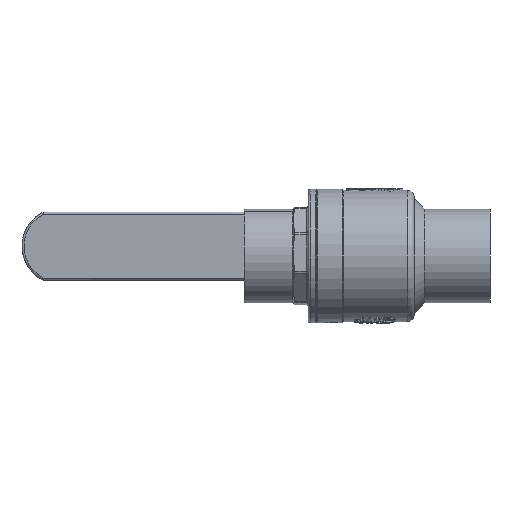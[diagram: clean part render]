
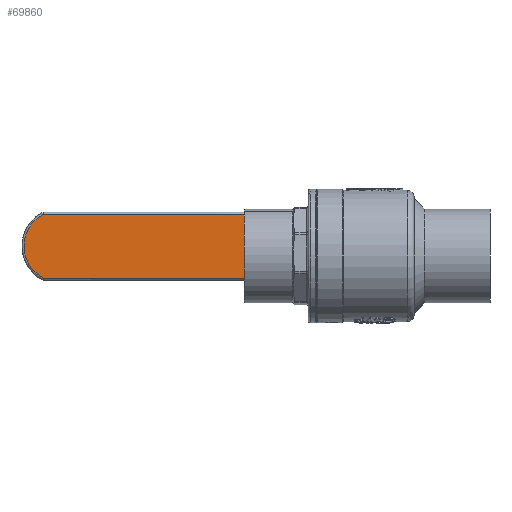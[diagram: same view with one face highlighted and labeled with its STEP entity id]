
A CAD part, front view. The second image highlights one B-rep face of the part: STEP entity #69860.
In plain terms, the highlighted planar face has unit normal (0, -1, 0).
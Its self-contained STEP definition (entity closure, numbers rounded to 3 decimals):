
#3873 = EDGE_LOOP ( 'NONE', ( #51739, #68472, #35517, #90090 ) ) ;
#4374 = VERTEX_POINT ( 'NONE', #22143 ) ;
#15157 = EDGE_CURVE ( 'NONE', #75387, #35710, #104351, .T. ) ;
#16505 = AXIS2_PLACEMENT_3D ( 'NONE', #84686, #49382, #50160 ) ;
#16540 = DIRECTION ( 'NONE',  ( -1., 0., 0. ) ) ;
#19834 = CARTESIAN_POINT ( 'NONE',  ( -10.036, -5., 16.45 ) ) ;
#22143 = CARTESIAN_POINT ( 'NONE',  ( -123.134, -5., -16.45 ) ) ;
#28634 = EDGE_CURVE ( 'NONE', #35710, #4374, #74589, .T. ) ;
#32656 = VECTOR ( 'NONE', #71660, 1000. ) ;
#34989 = PLANE ( 'NONE',  #56392 ) ;
#35517 = ORIENTED_EDGE ( 'NONE', *, *, #60786, .T. ) ;
#35710 = VERTEX_POINT ( 'NONE', #83846 ) ;
#36673 = CARTESIAN_POINT ( 'NONE',  ( -124., -5., -16.45 ) ) ;
#39816 = CIRCLE ( 'NONE', #16505, 18.5 ) ;
#43342 = VERTEX_POINT ( 'NONE', #84058 ) ;
#49382 = DIRECTION ( 'NONE',  ( 0., -1., 0. ) ) ;
#50160 = DIRECTION ( 'NONE',  ( 0., 0., 1. ) ) ;
#51739 = ORIENTED_EDGE ( 'NONE', *, *, #28634, .T. ) ;
#52038 = FACE_OUTER_BOUND ( 'NONE', #3873, .T. ) ;
#52646 = CARTESIAN_POINT ( 'NONE',  ( -123.567, -5., 16.45 ) ) ;
#53083 = CARTESIAN_POINT ( 'NONE',  ( -124., -5., 16.45 ) ) ;
#56392 = AXIS2_PLACEMENT_3D ( 'NONE', #53083, #115849, #99669 ) ;
#59408 = VECTOR ( 'NONE', #16540, 1000. ) ;
#60786 = EDGE_CURVE ( 'NONE', #43342, #75387, #39816, .T. ) ;
#68472 = ORIENTED_EDGE ( 'NONE', *, *, #104204, .T. ) ;
#69860 = ADVANCED_FACE ( 'NONE', ( #52038 ), #34989, .F. ) ;
#71660 = DIRECTION ( 'NONE',  ( 1., 0., 0. ) ) ;
#74589 = LINE ( 'NONE', #75415, #103978 ) ;
#75387 = VERTEX_POINT ( 'NONE', #19834 ) ;
#75415 = CARTESIAN_POINT ( 'NONE',  ( -123.134, -5., -17.45 ) ) ;
#80473 = LINE ( 'NONE', #36673, #32656 ) ;
#83846 = CARTESIAN_POINT ( 'NONE',  ( -123.134, -5., 16.45 ) ) ;
#84058 = CARTESIAN_POINT ( 'NONE',  ( -10.036, -5., -16.45 ) ) ;
#84686 = CARTESIAN_POINT ( 'NONE',  ( -18.5, -5., 0. ) ) ;
#85129 = DIRECTION ( 'NONE',  ( 0., 0., -1. ) ) ;
#90090 = ORIENTED_EDGE ( 'NONE', *, *, #15157, .T. ) ;
#99669 = DIRECTION ( 'NONE',  ( 0., 0., 1. ) ) ;
#103978 = VECTOR ( 'NONE', #85129, 1000. ) ;
#104204 = EDGE_CURVE ( 'NONE', #4374, #43342, #80473, .T. ) ;
#104351 = LINE ( 'NONE', #52646, #59408 ) ;
#115849 = DIRECTION ( 'NONE',  ( 0., 1., 0. ) ) ;
